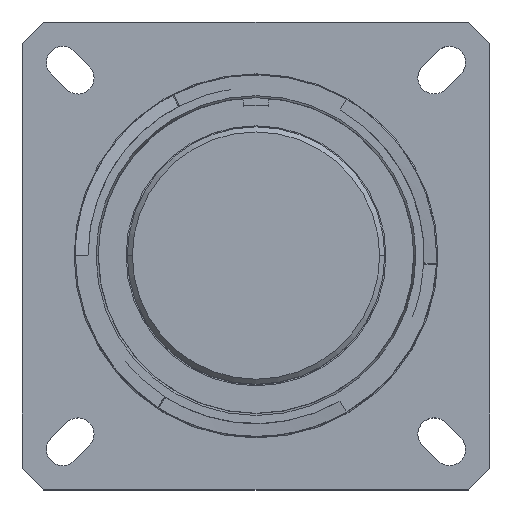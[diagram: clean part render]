
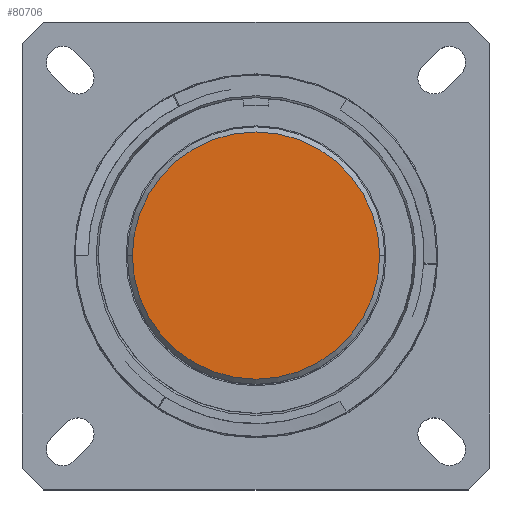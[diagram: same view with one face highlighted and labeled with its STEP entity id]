
A CAD part, top view. The second image highlights one B-rep face of the part: STEP entity #80706.
In plain terms, the highlighted planar face has unit normal (0, 0, 1).
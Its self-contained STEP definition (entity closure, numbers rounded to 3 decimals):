
#1187 = DIRECTION ( 'NONE',  ( 0., 0., 1. ) ) ;
#10710 = CARTESIAN_POINT ( 'NONE',  ( 0., 0., -0.457 ) ) ;
#10824 = VERTEX_POINT ( 'NONE', #54849 ) ;
#13804 = CARTESIAN_POINT ( 'NONE',  ( 0., 0., -0.457 ) ) ;
#33925 = DIRECTION ( 'NONE',  ( 0., 0., 1. ) ) ;
#37448 = EDGE_LOOP ( 'NONE', ( #58990, #87885 ) ) ;
#40389 = CIRCLE ( 'NONE', #65022, 12.383 ) ;
#41191 = FACE_OUTER_BOUND ( 'NONE', #37448, .T. ) ;
#43046 = CIRCLE ( 'NONE', #109483, 12.383 ) ;
#43244 = EDGE_CURVE ( 'NONE', #69803, #10824, #40389, .T. ) ;
#52380 = CARTESIAN_POINT ( 'NONE',  ( 0., 0., -0.457 ) ) ;
#54849 = CARTESIAN_POINT ( 'NONE',  ( -12.383, 0., -0.457 ) ) ;
#58990 = ORIENTED_EDGE ( 'NONE', *, *, #115862, .T. ) ;
#65022 = AXIS2_PLACEMENT_3D ( 'NONE', #10710, #1187, #73163 ) ;
#67373 = DIRECTION ( 'NONE',  ( 0., 0., 1. ) ) ;
#69063 = DIRECTION ( 'NONE',  ( 1., 0., 0. ) ) ;
#69803 = VERTEX_POINT ( 'NONE', #97787 ) ;
#73163 = DIRECTION ( 'NONE',  ( 1., 0., 0. ) ) ;
#73341 = AXIS2_PLACEMENT_3D ( 'NONE', #13804, #67373, #103615 ) ;
#80706 = ADVANCED_FACE ( 'NONE', ( #41191 ), #113714, .T. ) ;
#87885 = ORIENTED_EDGE ( 'NONE', *, *, #43244, .T. ) ;
#97787 = CARTESIAN_POINT ( 'NONE',  ( 12.383, 0., -0.457 ) ) ;
#103615 = DIRECTION ( 'NONE',  ( 1., 0., 0. ) ) ;
#109483 = AXIS2_PLACEMENT_3D ( 'NONE', #52380, #33925, #69063 ) ;
#113714 = PLANE ( 'NONE',  #73341 ) ;
#115862 = EDGE_CURVE ( 'NONE', #10824, #69803, #43046, .T. ) ;
